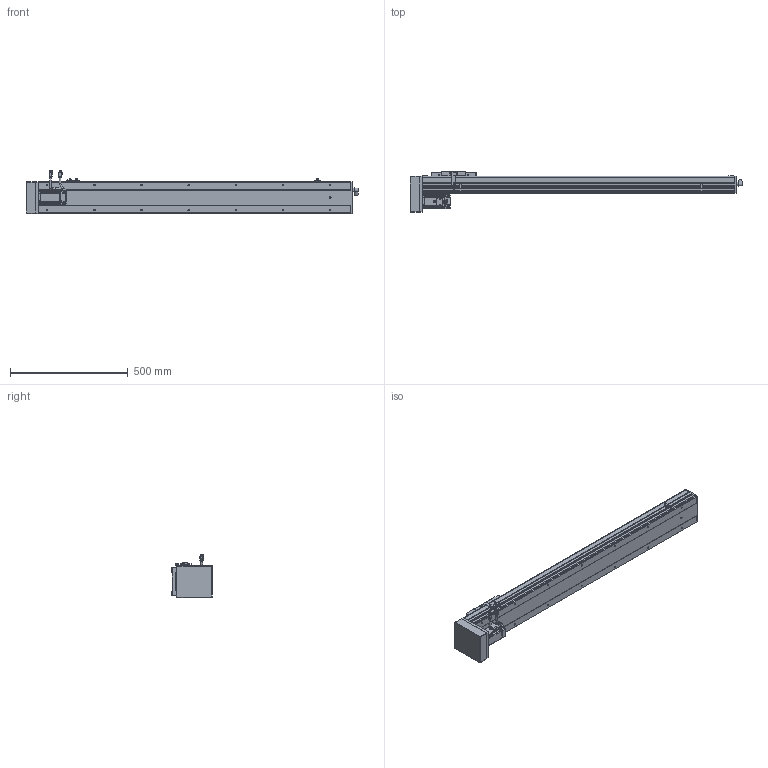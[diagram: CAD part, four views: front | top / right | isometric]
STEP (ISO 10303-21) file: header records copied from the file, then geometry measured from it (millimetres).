
FILE_DESCRIPTION(/* description */ ('STEP AP214'),/* implementation_level */ '2;1');
FILE_NAME(/* name */ 'PSC140-L05-S1050-BM-P40-C1-N(0-P)',/* time_stamp */ '2022-06-13T03:22:14+02:00',/* author */ ('License CC BY-ND 4.0'),/* organization */ ('CADENAS'),/* preprocessor_version */ 'ST-DEVELOPER v18.102',/* originating_system */ 'PARTsolutions',/* authorisation */ ' ');
FILE_SCHEMA (('AUTOMOTIVE_DESIGN {1 0 10303 214 3 1 1}'));
Length unit declared in the file: millimetre
Products named in the file (11): PSC140-L05-S1050-BM-P40-C1-N(0-P); P40-s2; P40-c2; P40-s1; P40-c1; P40-p1; PSC140-BM-body2; PSC140-sensor; PSC140-BM-SLIDER; PSC140-S1050-BM-P40-C1-P_BODY1; PSC140-L05-S1050-BM-P40-C1-N(0-P)_dummy
Assembly tree (12 placements, depth 2):
  PSC140-L05-S1050-BM-P40-C1-N(0-P)
    P40-s2
    P40-c2
    P40-s1
    P40-c1
    P40-p1
    PSC140-BM-body2
    PSC140-sensor  x3
    PSC140-BM-SLIDER
    PSC140-S1050-BM-P40-C1-P_BODY1
    PSC140-L05-S1050-BM-P40-C1-N(0-P)_dummy
Bounding box: 1408 x 171.5 x 182.48 mm (x, y, z)
Volume: 14447943.5 mm3; surface area: 818657.7 mm2
Topology: 11 solids, 11 shells, 1244 faces, 3205 edges, 2120 vertices
Faces by surface type: plane 864, cylinder 319, cone 42, torus 19
Full cylindrical faces by diameter (mm): 1 x8, 2.6 x10, 2.8 x3, 3.3 x8, 4.5 x12, 4.6 x3, 4.917 x18, 5 x4, 5.5 x8, 6 x11, 7 x10, 9 x2, 10 x1, 11 x1, 12 x1, 13.74 x1, 14 x1, 16.4 x2, 16.5 x1, 36 x1, 50 x2
Entity records: 34392 total; most frequent: CARTESIAN_POINT 6002, DIRECTION 5789, ORIENTED_EDGE 5574, EDGE_CURVE 2787, LINE 2105, VECTOR 2105, VERTEX_POINT 1940, AXIS2_PLACEMENT_3D 1842
